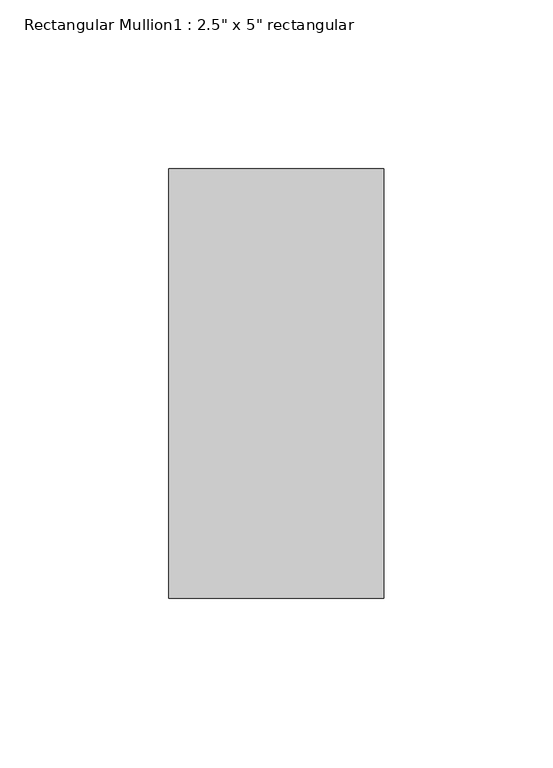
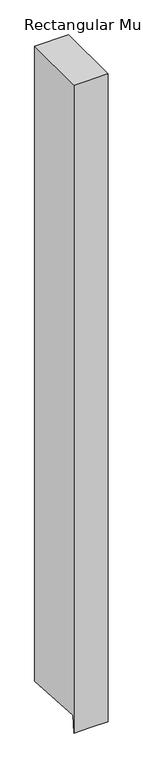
"""IFC4 building model written with IfcOpenShell, lengths in millimetres: member geometry."""

import ifcopenshell
import ifcopenshell.guid

model = None  # the IFC model being written
_history = None  # IfcOwnerHistory: only IFC2X3 demands one
_inside = {}  # id of a spatial element -> (the spatial element, [elements in it])
_under = {}  # id of a project, library or spatial element -> (it, [spatial elements below it])
_declared = {}  # id of a project -> (the project, [libraries it declares])
_typed = {}  # id of a type object -> (the type object, [elements of that type])
_made_of = {}  # id of a material, layer set ... -> (it, [elements and type objects made of it])


def new_model(schema):
    """Start an empty IFC model of exactly this schema.

    Asked for "IFC4X3", IfcOpenShell would pick the latest addendum, in which some entities
    have other attributes; the version numbers below select the first issue.
    IFC2X3 requires an IfcOwnerHistory on every rooted entity: one is made here for all.
    """
    global model, _history
    if schema == "IFC4X3":
        model = ifcopenshell.file(schema_version=(4, 3, 0, 0))
    else:
        model = ifcopenshell.file(schema=schema)
    _inside.clear()
    _under.clear()
    _declared.clear()
    _typed.clear()
    _made_of.clear()
    _history = None
    if model.schema == "IFC2X3":
        org = make("IfcOrganization", Name="unknown")
        user = make(
            "IfcPersonAndOrganization",
            ThePerson=make("IfcPerson", FamilyName="unknown"),
            TheOrganization=org,
        )
        app = make(
            "IfcApplication",
            ApplicationDeveloper=org,
            Version="unknown",
            ApplicationFullName="unknown",
            ApplicationIdentifier="unknown",
        )
        _history = make(
            "IfcOwnerHistory",
            OwningUser=user,
            OwningApplication=app,
            ChangeAction="ADDED",
            CreationDate=0,
        )
    return model


def make(cls, **values):
    """One entity of the class cls with the attributes given. An attribute that is None is left unset."""
    return model.create_entity(
        cls, **{name: value for name, value in values.items() if value is not None}
    )


def rooted(cls, **values):
    """An entity with a GlobalId (a new one), such as an element, a storey or a relation."""
    return make(cls, GlobalId=ifcopenshell.guid.new(), OwnerHistory=_history, **values)


def si_unit(unit_type, name, prefix=None):
    """IfcSIUnit, for example si_unit("LENGTHUNIT", "METRE", prefix="MILLI")."""
    return make("IfcSIUnit", UnitType=unit_type, Prefix=prefix, Name=name)


def assignment(units):
    """IfcUnitAssignment: the units of a project."""
    return None if units is None else make("IfcUnitAssignment", Units=units)


def point(xyz):
    """IfcCartesianPoint."""
    return None if xyz is None else make("IfcCartesianPoint", Coordinates=xyz)


def direction(xyz):
    """IfcDirection."""
    return None if xyz is None else make("IfcDirection", DirectionRatios=xyz)


def frame(location, z_axis=None, x_axis=None):
    """IfcAxis2Placement3D, a coordinate frame: its origin and axes. An axis left out is left unset."""
    return make(
        "IfcAxis2Placement3D",
        Location=point(location),
        Axis=direction(z_axis),
        RefDirection=direction(x_axis),
    )


def origin():
    """The frame at (0, 0, 0) with its axes left unset."""
    return frame((0.0, 0.0, 0.0))


def place(relative_to, where):
    """IfcLocalPlacement: puts the frame where relative to a parent placement (None: the world)."""
    return make(
        "IfcLocalPlacement", PlacementRelTo=relative_to, RelativePlacement=where
    )


def context(
    kind, dimensions, precision=None, world=None, true_north=None, identifier=None
):
    """IfcGeometricRepresentationContext, for example the 3D "Model" context."""
    return make(
        "IfcGeometricRepresentationContext",
        ContextIdentifier=identifier,
        ContextType=kind,
        CoordinateSpaceDimension=dimensions,
        Precision=precision,
        WorldCoordinateSystem=world,
        TrueNorth=true_north,
    )


def project(units=None, contexts=None):
    """IfcProject with its units and contexts."""
    return rooted(
        "IfcProject",
        Name="project",
        RepresentationContexts=contexts,
        UnitsInContext=assignment(units),
    )


def spatial(cls, under=None, at=None, **own):
    """A site, building, storey or space (cls), placed at a placement, below another one or the project."""
    s = rooted(cls, ObjectPlacement=at, **own)
    if under is not None:
        _under.setdefault(under.id(), (under, []))[1].append(s)
    return s


def faces_of(points, faces, orient=None, outer=None):
    """IfcFace entities. A face is a list of loops; a loop is a list of indices into points, from 0.

    orient and outer hold one flag for each loop. By default every Orientation is true, the
    first loop of a face is its IfcFaceOuterBound and the others are IfcFaceBound.
    """
    made = []
    for i, loops in enumerate(faces):
        bounds = []
        for j, loop in enumerate(loops):
            is_outer = j == 0 if outer is None else outer[i][j]
            bounds.append(
                make(
                    "IfcFaceOuterBound" if is_outer else "IfcFaceBound",
                    Bound=make("IfcPolyLoop", Polygon=[points[k] for k in loop]),
                    Orientation=True if orient is None else orient[i][j],
                )
            )
        made.append(make("IfcFace", Bounds=bounds))
    return made


def faceted_brep(points, faces, orient=None, outer=None, voids=None):
    """IfcFacetedBrep: a solid bounded by flat faces; with voids (closed shells), ...WithVoids."""
    shared = [point(p) for p in points]
    hull = make("IfcClosedShell", CfsFaces=faces_of(shared, faces, orient, outer))
    if voids is None:
        return make("IfcFacetedBrep", Outer=hull)
    return make(
        "IfcFacetedBrepWithVoids",
        Outer=hull,
        Voids=[
            make(cls, CfsFaces=faces_of(shared, fs, o, b)) for cls, fs, o, b in voids
        ],
    )


def shape(context_of_items, identifier, shape_type, items):
    """IfcShapeRepresentation: the items that make up one representation, for example the "Body"."""
    return make(
        "IfcShapeRepresentation",
        ContextOfItems=context_of_items,
        RepresentationIdentifier=identifier,
        RepresentationType=shape_type,
        Items=items,
    )


def source(mapping_origin, context_of_items, identifier, shape_type, items):
    """IfcRepresentationMap: a shape defined once, which mapped items show again and again."""
    return make(
        "IfcRepresentationMap",
        MappingOrigin=mapping_origin,
        MappedRepresentation=shape(context_of_items, identifier, shape_type, items),
    )


def transform(
    local_origin,
    x_axis=None,
    y_axis=None,
    z_axis=None,
    scale=None,
    scale2=None,
    scale3=None,
    uniform=True,
):
    """IfcCartesianTransformationOperator3D, or its non-uniform kind. x_axis, y_axis, z_axis: its Axis1, 2, 3."""
    if uniform:
        return make(
            "IfcCartesianTransformationOperator3D",
            Axis1=direction(x_axis),
            Axis2=direction(y_axis),
            LocalOrigin=point(local_origin),
            Scale=scale,
            Axis3=direction(z_axis),
        )
    return make(
        "IfcCartesianTransformationOperator3DnonUniform",
        Axis1=direction(x_axis),
        Axis2=direction(y_axis),
        LocalOrigin=point(local_origin),
        Scale=scale,
        Axis3=direction(z_axis),
        Scale2=scale2,
        Scale3=scale3,
    )


def mapped(mapping_source, mapping_target):
    """IfcMappedItem: shows the shape of a source again, moved by a transform."""
    return make(
        "IfcMappedItem", MappingSource=mapping_source, MappingTarget=mapping_target
    )


def made_of(thing, what):
    """Note that an element or type object is made of a material, layer set ...; save() writes the relation."""
    if what is not None:
        _made_of.setdefault(what.id(), (what, []))[1].append(thing)
    return thing


def element(
    cls,
    number,
    at=None,
    inside=None,
    cuts=None,
    type_object=None,
    material=None,
    context=None,
    identifier="Body",
    shape_type=None,
    held_by="IfcProductDefinitionShape",
    body=None,
    shapes=None,
    **own,
):
    """One element of the class cls, such as IfcWall. Its Tag is "e" and its number.

    at: its placement. inside: the storey or other place that contains it. cuts: it is an
    opening in that element (IfcRelVoidsElement). A single representation is given by context,
    identifier, shape_type and body (its items); several are given by shapes. held_by: the class
    of the entity that holds the representations. save() writes the other relations.
    """
    e = rooted(cls, Tag="e%d" % number, ObjectPlacement=at, **own)
    if body is not None:
        shapes = [shape(context, identifier, shape_type, body)]
    if shapes is not None:
        e.Representation = make(held_by, Representations=shapes)
    if inside is not None:
        _inside.setdefault(inside.id(), (inside, []))[1].append(e)
    if cuts is not None:
        rooted(
            "IfcRelVoidsElement", RelatingBuildingElement=cuts, RelatedOpeningElement=e
        )
    if type_object is not None:
        _typed.setdefault(type_object.id(), (type_object, []))[1].append(e)
    return made_of(e, material)


def aggregate(whole, parts):
    """IfcRelAggregates: a whole, such as a stair, and the parts it consists of."""
    return rooted("IfcRelAggregates", RelatingObject=whole, RelatedObjects=parts)


def save(model, path):
    """Write the relations noted so far, then the file.

    IfcRelAggregates (storeys below a building ...), IfcRelContainedInSpatialStructure (elements
    in a storey), IfcRelDefinesByType, IfcRelAssociatesMaterial and IfcRelDeclares: one each for
    every whole, place, type object, material and project.
    """
    for whole, parts in _under.values():
        aggregate(whole, parts)
    for where, things in _inside.values():
        rooted(
            "IfcRelContainedInSpatialStructure",
            RelatedElements=things,
            RelatingStructure=where,
        )
    for kind, things in _typed.values():
        rooted("IfcRelDefinesByType", RelatedObjects=things, RelatingType=kind)
    for what, things in _made_of.values():
        rooted("IfcRelAssociatesMaterial", RelatedObjects=things, RelatingMaterial=what)
    for by, libraries in _declared.values():
        rooted("IfcRelDeclares", RelatingContext=by, RelatedDefinitions=libraries)
    model.write(path)


def member_21287d99(model_context):
    return source(origin(), model_context, "Body", "Brep", [
        faceted_brep([(31.75, 63.5, 0.0), (-31.75, 63.5, 0.0), (-31.75, -63.5, 0.0), (31.75, -63.5, 0.0), (31.75, 63.5, -1253.5867756), (0.0, 63.5, -1253.5867756), (-31.75, 63.5, -1253.5867756), (-31.75, -61.1522336, -1244.9455147), (-31.75, -63.5, -1278.8126009), (0.0, -63.5, -1278.8126009), (31.75, -63.5, -1278.8126009), (31.75, -61.1522336, -1244.9455147), (0.0, -61.1522336, -1244.9455147)], [[[0, 1, 2, 3]], [[1, 0, 4, 5, 6]], [[2, 1, 6, 7, 8]], [[3, 2, 8, 9, 10]], [[0, 3, 10, 11, 4]], [[4, 11, 12, 5]], [[11, 10, 9, 12]], [[9, 8, 7, 12]], [[7, 6, 5, 12]]]),
    ])


if __name__ == "__main__":
    model = new_model("IFC4")
    model_context = context("Model", 3, world=origin())
    ifc_project = project(units=[si_unit("LENGTHUNIT", "METRE", prefix="MILLI")], contexts=[model_context])
    site = spatial("IfcSite", under=ifc_project)
    building = spatial("IfcBuilding", under=site)
    placement = place(None, origin())
    member_shape = member_21287d99(model_context)
    element("IfcMember", 1, ObjectType="Rectangular Mullion1 : 2.5\" x 5\" rectangular", at=placement, inside=building, context=model_context, shape_type="MappedRepresentation", body=[
        mapped(member_shape, transform((0.0, 0.0, 0.0), x_axis=(1.0, 0.0, 0.0), y_axis=(0.0, 1.0, 0.0), z_axis=(0.0, 0.0, 1.0))),
    ])
    save(model, "model.ifc")
